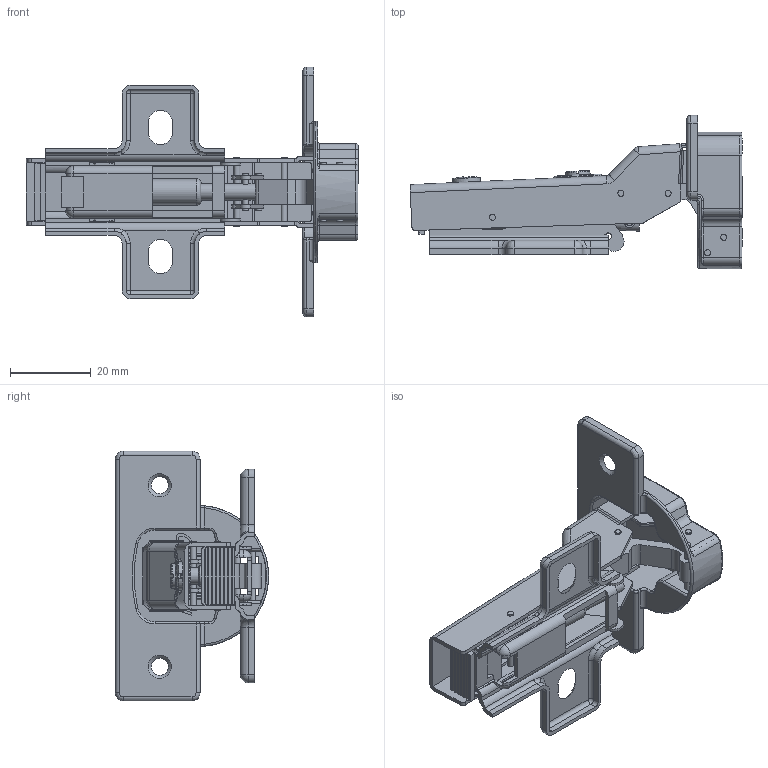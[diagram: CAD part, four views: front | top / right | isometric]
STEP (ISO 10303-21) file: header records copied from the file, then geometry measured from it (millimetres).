
FILE_DESCRIPTION(/* description */ (''),/* implementation_level */ '2;1');
FILE_NAME(/* name */ 'W:\R&D\pub\Katalog techniczny\bryły 3D\ZM-INHC08BEO.stp',/* time_stamp */ '2016-09-14T14:53:16+02:00',/* author */ ('tomaszw'),/* organization */ (''),/* preprocessor_version */ 'ST-DEVELOPER v16.1',/* originating_system */ 'Autodesk Inventor 2016',/* authorisation */ '');
FILE_SCHEMA (('AUTOMOTIVE_DESIGN { 1 0 10303 214 3 1 1 }'));
Length unit declared in the file: millimetre
Products named in the file (14): ZM-INHC0-P; ZM-INHC0_2; ZM-INHC0_1; ZM-INHC0_4; ZM-INHC08; ZM-INHC0_Pin2; ZM-INHC0_Pin1; Wkret4x6; ZM-INHC0_5; ZM-INHC0_6; ZM-INHC0_7; ZM-INHC0_3_8; ZM-INHC0_8_8; ZM-INHC07(8)(9)0ZEO(BEO)
Assembly tree (17 placements, depth 2):
  ZM-INHC07(8)(9)0ZEO(BEO)
    ZM-INHC0-P
    ZM-INHC0_2
    ZM-INHC0_1
    ZM-INHC0_4
    ZM-INHC08
    ZM-INHC0_Pin2  x4
    ZM-INHC0_Pin1  x2
    Wkret4x6
    ZM-INHC0_5
    ZM-INHC0_6
    ZM-INHC0_7
    ZM-INHC0_3_8
    ZM-INHC0_8_8
Bounding box: 82.34 x 38 x 62 mm (x, y, z)
Volume: 10750.7 mm3; surface area: 22949.4 mm2
Topology: 17 solids, 17 shells, 838 faces, 2127 edges, 1321 vertices
Faces by surface type: plane 358, cylinder 300, torus 80, bspline 62, sphere 20, cone 18
Full cylindrical faces by diameter (mm): 1.5 x34, 4 x2, 5 x1, 6 x1, 6.5 x2, 7 x1
Entity records: 27148 total; most frequent: CARTESIAN_POINT 5984, DIRECTION 4284, ORIENTED_EDGE 4112, EDGE_CURVE 2056, AXIS2_PLACEMENT_3D 1561, VERTEX_POINT 1306, LINE 1162, VECTOR 1162
